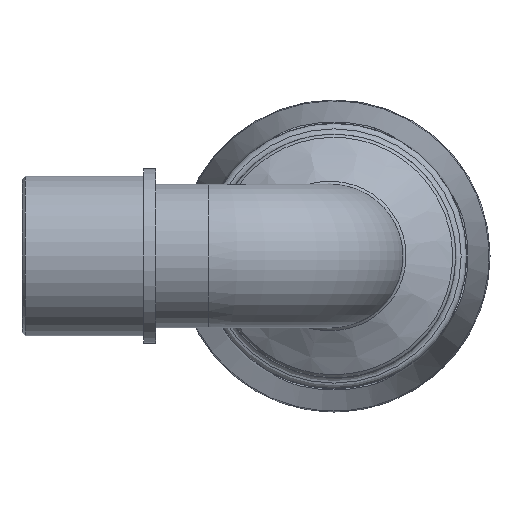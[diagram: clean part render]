
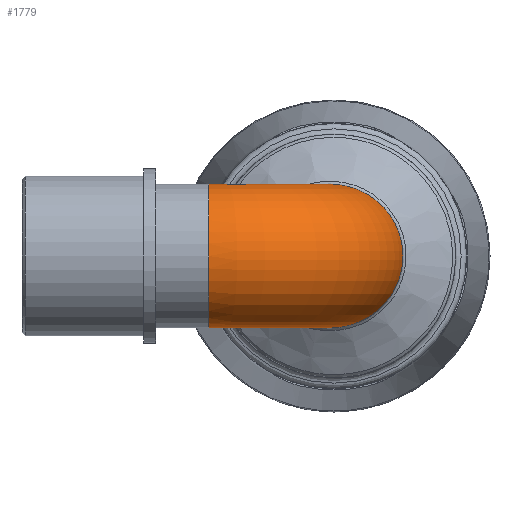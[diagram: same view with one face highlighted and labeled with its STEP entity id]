
A CAD part, left-side view. The second image highlights one B-rep face of the part: STEP entity #1779.
In plain terms, the highlighted toroidal (fillet/blend) face has major radius 16.468 mm and minor radius 9.43 mm.
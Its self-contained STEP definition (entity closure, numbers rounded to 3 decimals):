
#80=TOROIDAL_SURFACE('',#1905,16.468,9.43);
#90=FACE_BOUND('',#432,.T.);
#315=FACE_OUTER_BOUND('',#431,.T.);
#431=EDGE_LOOP('',(#1185));
#432=EDGE_LOOP('',(#1186));
#549=B_SPLINE_CURVE_WITH_KNOTS('',3,(#2669,#2670,#2671,#2672,#2673,#2674,
#2675,#2676,#2677,#2678,#2679,#2680,#2681,#2682,#2683,#2684,#2685),
 .UNSPECIFIED.,.T.,.F.,(4,1,1,1,1,1,1,1,1,1,1,1,1,1,4),(-3.142,
-2.693,-2.244,-1.795,-1.346,
-1.047,-0.449,0.15,0.449,
0.898,1.346,1.795,2.244,2.693,
3.142),.UNSPECIFIED.);
#638=CIRCLE('',#1900,9.43);
#724=VERTEX_POINT('',#2667);
#746=VERTEX_POINT('',#2961);
#892=EDGE_CURVE('',#724,#724,#549,.T.);
#917=EDGE_CURVE('',#746,#746,#638,.T.);
#1185=ORIENTED_EDGE('',*,*,#892,.F.);
#1186=ORIENTED_EDGE('',*,*,#917,.T.);
#1779=ADVANCED_FACE('',(#315,#90),#80,.T.);
#1900=AXIS2_PLACEMENT_3D('',#2962,#2126,#2127);
#1905=AXIS2_PLACEMENT_3D('',#2970,#2136,#2137);
#2126=DIRECTION('center_axis',(0.,-1.,0.));
#2127=DIRECTION('ref_axis',(-1.,0.,0.));
#2136=DIRECTION('center_axis',(0.,0.,1.));
#2137=DIRECTION('ref_axis',(1.,0.,0.));
#2667=CARTESIAN_POINT('',(11.936,11.083,0.));
#2669=CARTESIAN_POINT('Ctrl Pts',(11.938,11.084,0.));
#2670=CARTESIAN_POINT('Ctrl Pts',(11.938,11.084,1.439));
#2671=CARTESIAN_POINT('Ctrl Pts',(11.914,10.177,4.318));
#2672=CARTESIAN_POINT('Ctrl Pts',(11.936,7.086,7.58));
#2673=CARTESIAN_POINT('Ctrl Pts',(12.002,3.026,9.46));
#2674=CARTESIAN_POINT('Ctrl Pts',(12.053,-0.94,9.536));
#2675=CARTESIAN_POINT('Ctrl Pts',(12.096,-5.081,8.063));
#2676=CARTESIAN_POINT('Ctrl Pts',(12.124,-8.628,4.462));
#2677=CARTESIAN_POINT('Ctrl Pts',(12.129,-9.403,-0.535));
#2678=CARTESIAN_POINT('Ctrl Pts',(12.119,-8.055,-4.713));
#2679=CARTESIAN_POINT('Ctrl Pts',(12.1,-5.512,-7.748));
#2680=CARTESIAN_POINT('Ctrl Pts',(12.059,-1.436,-9.55));
#2681=CARTESIAN_POINT('Ctrl Pts',(12.002,3.026,-9.458));
#2682=CARTESIAN_POINT('Ctrl Pts',(11.936,7.086,-7.581));
#2683=CARTESIAN_POINT('Ctrl Pts',(11.914,10.177,-4.317));
#2684=CARTESIAN_POINT('Ctrl Pts',(11.938,11.084,-1.439));
#2685=CARTESIAN_POINT('Ctrl Pts',(11.938,11.084,0.));
#2961=CARTESIAN_POINT('',(9.43,16.468,0.));
#2962=CARTESIAN_POINT('Origin',(0.,16.468,0.));
#2970=CARTESIAN_POINT('Origin',(16.468,16.468,0.));
